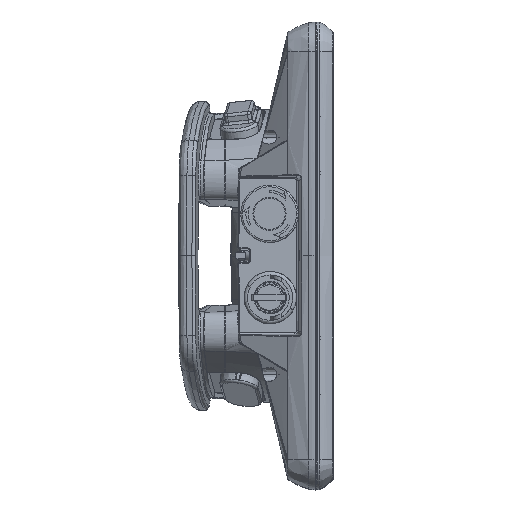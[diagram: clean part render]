
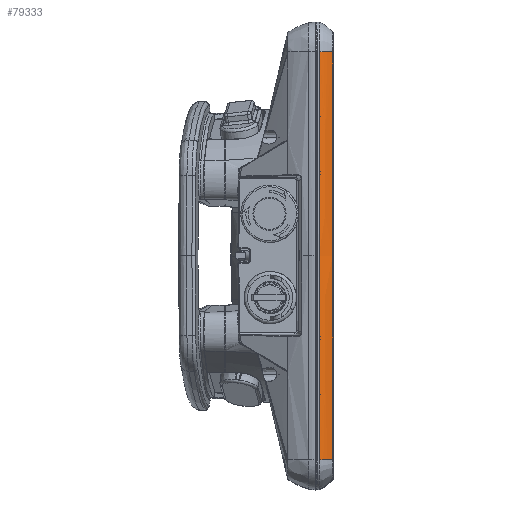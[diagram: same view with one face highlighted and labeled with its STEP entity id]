
A CAD part, top view. The second image highlights one B-rep face of the part: STEP entity #79333.
In plain terms, the highlighted free-form (B-spline) face has degree [5, 2] with [6, 3] control points.
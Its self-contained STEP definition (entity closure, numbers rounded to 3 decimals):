
#1277 = B_SPLINE_SURFACE_WITH_KNOTS ( 'NONE', 5, 2, ( 
 ( #115157, #34964, #178572 ),
 ( #179894, #133466, #85169 ),
 ( #8873, #180565, #23269 ),
 ( #131522, #177900, #164208 ),
 ( #87135, #115828, #85822 ),
 ( #6892, #53225, #196217 ) ),
 .UNSPECIFIED., .F., .F., .F.,
 ( 6, 6 ),
 ( 3, 3 ),
 ( 0., 233.886 ),
 ( 0., 9.881 ),
 .UNSPECIFIED. ) ;
#2597 = CARTESIAN_POINT ( 'NONE',  ( 4.256, -70.152, 105.059 ) ) ;
#6892 = CARTESIAN_POINT ( 'NONE',  ( -3.464, 116.942, 108.966 ) ) ;
#8873 = CARTESIAN_POINT ( 'NONE',  ( -3.464, -23.459, 111.367 ) ) ;
#13808 = VERTEX_POINT ( 'NONE', #117297 ) ;
#23269 = CARTESIAN_POINT ( 'NONE',  ( 4.536, -23.419, 105.566 ) ) ;
#23772 = EDGE_CURVE ( 'NONE', #156915, #13808, #35432, .T. ) ;
#34280 = CARTESIAN_POINT ( 'NONE',  ( 4.256, 116.754, 103.462 ) ) ;
#34964 = CARTESIAN_POINT ( 'NONE',  ( -0.412, -117.024, 108.374 ) ) ;
#35322 = CARTESIAN_POINT ( 'NONE',  ( 4.256, 70.05, 105.059 ) ) ;
#35432 = B_SPLINE_CURVE_WITH_KNOTS ( 'NONE', 2,
 ( #189385, #168871, #137434 ),
 .UNSPECIFIED., .F., .F.,
 ( 3, 3 ),
 ( 0., 1. ),
 .UNSPECIFIED. ) ;
#38254 = VERTEX_POINT ( 'NONE', #163043 ) ;
#41428 = FACE_OUTER_BOUND ( 'NONE', #77073, .T. ) ;
#44254 = CARTESIAN_POINT ( 'NONE',  ( 4.256, -116.856, 103.462 ) ) ;
#46955 = CARTESIAN_POINT ( 'NONE',  ( -3.464, -117.044, 108.966 ) ) ;
#47568 = CARTESIAN_POINT ( 'NONE',  ( -3.464, -117.044, 108.966 ) ) ;
#53225 = CARTESIAN_POINT ( 'NONE',  ( -0.412, 116.922, 108.374 ) ) ;
#58886 = B_SPLINE_CURVE_WITH_KNOTS ( 'NONE', 5,
 ( #75745, #73720, #153464, #199130, #137065, #137732 ),
 .UNSPECIFIED., .F., .F.,
 ( 6, 6 ),
 ( 0., 1. ),
 .UNSPECIFIED. ) ;
#66484 = EDGE_CURVE ( 'NONE', #156915, #38254, #110511, .T. ) ;
#73720 = CARTESIAN_POINT ( 'NONE',  ( -3.464, -70.265, 110.566 ) ) ;
#75745 = CARTESIAN_POINT ( 'NONE',  ( -3.464, -117.044, 108.966 ) ) ;
#77073 = EDGE_LOOP ( 'NONE', ( #167716, #198700, #140428, #173558 ) ) ;
#79333 = ADVANCED_FACE ( 'NONE', ( #41428 ), #1277, .F. ) ;
#79508 = CARTESIAN_POINT ( 'NONE',  ( 4.256, 116.754, 103.462 ) ) ;
#85169 = CARTESIAN_POINT ( 'NONE',  ( 4.536, -70.146, 104.766 ) ) ;
#85822 = CARTESIAN_POINT ( 'NONE',  ( 4.536, 70.044, 104.766 ) ) ;
#87135 = CARTESIAN_POINT ( 'NONE',  ( -3.464, 70.163, 110.566 ) ) ;
#104107 = EDGE_CURVE ( 'NONE', #38254, #173392, #179063, .T. ) ;
#110511 = B_SPLINE_CURVE_WITH_KNOTS ( 'NONE', 5,
 ( #79508, #35322, #144208, #157908, #2597, #159931 ),
 .UNSPECIFIED., .F., .F.,
 ( 6, 6 ),
 ( 0., 1. ),
 .UNSPECIFIED. ) ;
#115157 = CARTESIAN_POINT ( 'NONE',  ( -3.464, -117.044, 108.966 ) ) ;
#115828 = CARTESIAN_POINT ( 'NONE',  ( -0.412, 70.151, 109.973 ) ) ;
#117297 = CARTESIAN_POINT ( 'NONE',  ( -3.464, 116.942, 108.966 ) ) ;
#131522 = CARTESIAN_POINT ( 'NONE',  ( -3.464, 23.357, 111.367 ) ) ;
#133466 = CARTESIAN_POINT ( 'NONE',  ( -0.412, -70.253, 109.973 ) ) ;
#137065 = CARTESIAN_POINT ( 'NONE',  ( -3.464, 70.163, 110.566 ) ) ;
#137434 = CARTESIAN_POINT ( 'NONE',  ( -3.464, 116.942, 108.966 ) ) ;
#137732 = CARTESIAN_POINT ( 'NONE',  ( -3.464, 116.942, 108.966 ) ) ;
#140428 = ORIENTED_EDGE ( 'NONE', *, *, #141462, .F. ) ;
#141462 = EDGE_CURVE ( 'NONE', #173392, #13808, #58886, .T. ) ;
#144208 = CARTESIAN_POINT ( 'NONE',  ( 4.256, 23.319, 105.859 ) ) ;
#151860 = CARTESIAN_POINT ( 'NONE',  ( 1.086, -116.968, 106.748 ) ) ;
#153464 = CARTESIAN_POINT ( 'NONE',  ( -3.464, -23.459, 111.367 ) ) ;
#156915 = VERTEX_POINT ( 'NONE', #34280 ) ;
#157908 = CARTESIAN_POINT ( 'NONE',  ( 4.256, -23.421, 105.859 ) ) ;
#159931 = CARTESIAN_POINT ( 'NONE',  ( 4.256, -116.856, 103.462 ) ) ;
#163043 = CARTESIAN_POINT ( 'NONE',  ( 4.256, -116.856, 103.462 ) ) ;
#164208 = CARTESIAN_POINT ( 'NONE',  ( 4.536, 23.317, 105.566 ) ) ;
#167716 = ORIENTED_EDGE ( 'NONE', *, *, #66484, .F. ) ;
#168871 = CARTESIAN_POINT ( 'NONE',  ( -0.498, 116.923, 108.391 ) ) ;
#168919 = CARTESIAN_POINT ( 'NONE',  ( -1.487, -117.031, 108.583 ) ) ;
#173392 = VERTEX_POINT ( 'NONE', #47568 ) ;
#173558 = ORIENTED_EDGE ( 'NONE', *, *, #104107, .F. ) ;
#177900 = CARTESIAN_POINT ( 'NONE',  ( -0.412, 23.353, 110.774 ) ) ;
#178572 = CARTESIAN_POINT ( 'NONE',  ( 4.536, -116.846, 103.17 ) ) ;
#179063 = B_SPLINE_CURVE_WITH_KNOTS ( 'NONE', 3,
 ( #44254, #151860, #168919, #46955 ),
 .UNSPECIFIED., .F., .F.,
 ( 4, 4 ),
 ( 0., 1. ),
 .UNSPECIFIED. ) ;
#179894 = CARTESIAN_POINT ( 'NONE',  ( -3.464, -70.265, 110.566 ) ) ;
#180565 = CARTESIAN_POINT ( 'NONE',  ( -0.412, -23.455, 110.774 ) ) ;
#189385 = CARTESIAN_POINT ( 'NONE',  ( 4.256, 116.754, 103.462 ) ) ;
#196217 = CARTESIAN_POINT ( 'NONE',  ( 4.536, 116.744, 103.17 ) ) ;
#198700 = ORIENTED_EDGE ( 'NONE', *, *, #23772, .T. ) ;
#199130 = CARTESIAN_POINT ( 'NONE',  ( -3.464, 23.357, 111.367 ) ) ;
